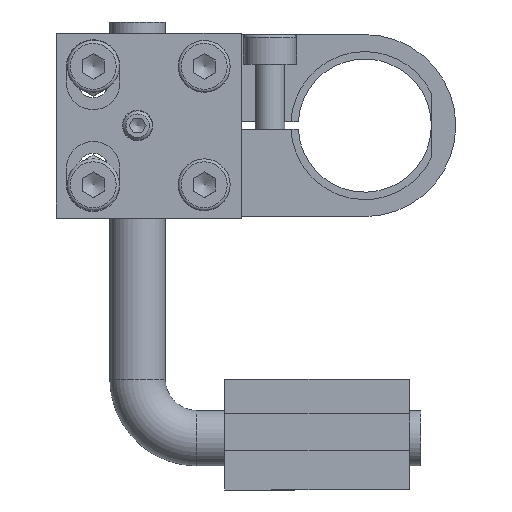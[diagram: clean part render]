
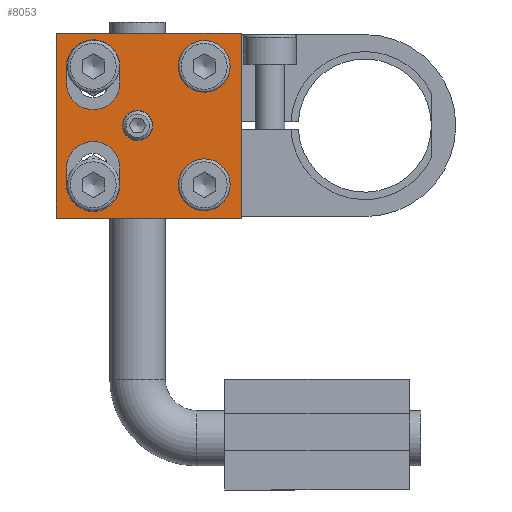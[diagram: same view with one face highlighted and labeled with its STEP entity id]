
A CAD part, front view. The second image highlights one B-rep face of the part: STEP entity #8053.
In plain terms, the highlighted planar face has unit normal (0, -1, 0).
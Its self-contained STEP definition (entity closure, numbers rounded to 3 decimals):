
#367=FACE_BOUND('',#1338,.T.);
#368=FACE_BOUND('',#1339,.T.);
#369=FACE_BOUND('',#1340,.T.);
#370=FACE_BOUND('',#1341,.T.);
#371=FACE_BOUND('',#1342,.T.);
#372=FACE_BOUND('',#1343,.T.);
#576=CIRCLE('',#8592,3.5);
#579=CIRCLE('',#8598,3.5);
#582=CIRCLE('',#8607,3.6);
#584=CIRCLE('',#8611,3.6);
#588=CIRCLE('',#8618,3.6);
#590=CIRCLE('',#8622,3.6);
#597=CIRCLE('',#8640,2.05);
#1338=EDGE_LOOP('',(#5402));
#1339=EDGE_LOOP('',(#5403));
#1340=EDGE_LOOP('',(#5404,#5405,#5406,#5407));
#1341=EDGE_LOOP('',(#5408,#5409,#5410,#5411));
#1342=EDGE_LOOP('',(#5412));
#1343=EDGE_LOOP('',(#5413,#5414,#5415,#5416));
#1970=LINE('',#11584,#2632);
#1994=LINE('',#11670,#2656);
#1998=LINE('',#11680,#2660);
#2004=LINE('',#11703,#2666);
#2008=LINE('',#11713,#2670);
#2023=LINE('',#11757,#2685);
#2024=LINE('',#11760,#2686);
#2027=LINE('',#11765,#2689);
#2632=VECTOR('',#9467,25.);
#2656=VECTOR('',#9553,2.25);
#2660=VECTOR('',#9565,2.25);
#2666=VECTOR('',#9585,2.25);
#2670=VECTOR('',#9597,2.25);
#2685=VECTOR('',#9648,25.);
#2686=VECTOR('',#9651,25.);
#2689=VECTOR('',#9656,25.);
#3293=VERTEX_POINT('',#11581);
#3294=VERTEX_POINT('',#11583);
#3313=VERTEX_POINT('',#11632);
#3316=VERTEX_POINT('',#11641);
#3322=VERTEX_POINT('',#11661);
#3323=VERTEX_POINT('',#11663);
#3325=VERTEX_POINT('',#11669);
#3327=VERTEX_POINT('',#11675);
#3334=VERTEX_POINT('',#11694);
#3335=VERTEX_POINT('',#11696);
#3337=VERTEX_POINT('',#11702);
#3339=VERTEX_POINT('',#11708);
#3348=VERTEX_POINT('',#11750);
#3350=VERTEX_POINT('',#11755);
#3351=VERTEX_POINT('',#11759);
#4076=EDGE_CURVE('',#3293,#3294,#1970,.T.);
#4100=EDGE_CURVE('',#3313,#3313,#576,.T.);
#4103=EDGE_CURVE('',#3316,#3316,#579,.T.);
#4112=EDGE_CURVE('',#3323,#3322,#582,.T.);
#4115=EDGE_CURVE('',#3325,#3323,#1994,.T.);
#4118=EDGE_CURVE('',#3327,#3325,#584,.T.);
#4121=EDGE_CURVE('',#3322,#3327,#1998,.T.);
#4128=EDGE_CURVE('',#3335,#3334,#588,.T.);
#4131=EDGE_CURVE('',#3337,#3335,#2004,.T.);
#4134=EDGE_CURVE('',#3339,#3337,#590,.T.);
#4137=EDGE_CURVE('',#3334,#3339,#2008,.T.);
#4156=EDGE_CURVE('',#3348,#3348,#597,.T.);
#4159=EDGE_CURVE('',#3350,#3293,#2023,.T.);
#4160=EDGE_CURVE('',#3294,#3351,#2024,.T.);
#4163=EDGE_CURVE('',#3351,#3350,#2027,.T.);
#5402=ORIENTED_EDGE('',*,*,#4100,.T.);
#5403=ORIENTED_EDGE('',*,*,#4103,.T.);
#5404=ORIENTED_EDGE('',*,*,#4112,.T.);
#5405=ORIENTED_EDGE('',*,*,#4121,.T.);
#5406=ORIENTED_EDGE('',*,*,#4118,.T.);
#5407=ORIENTED_EDGE('',*,*,#4115,.T.);
#5408=ORIENTED_EDGE('',*,*,#4128,.T.);
#5409=ORIENTED_EDGE('',*,*,#4137,.T.);
#5410=ORIENTED_EDGE('',*,*,#4134,.T.);
#5411=ORIENTED_EDGE('',*,*,#4131,.T.);
#5412=ORIENTED_EDGE('',*,*,#4156,.T.);
#5413=ORIENTED_EDGE('',*,*,#4159,.F.);
#5414=ORIENTED_EDGE('',*,*,#4163,.F.);
#5415=ORIENTED_EDGE('',*,*,#4160,.F.);
#5416=ORIENTED_EDGE('',*,*,#4076,.F.);
#7195=PLANE('',#8644);
#8053=ADVANCED_FACE('',(#367,#368,#369,#370,#371,#372),#7195,.T.);
#8592=AXIS2_PLACEMENT_3D('',#11633,#9511,#9512);
#8598=AXIS2_PLACEMENT_3D('',#11642,#9523,#9524);
#8607=AXIS2_PLACEMENT_3D('',#11664,#9547,#9548);
#8611=AXIS2_PLACEMENT_3D('',#11676,#9559,#9560);
#8618=AXIS2_PLACEMENT_3D('',#11697,#9579,#9580);
#8622=AXIS2_PLACEMENT_3D('',#11709,#9591,#9592);
#8640=AXIS2_PLACEMENT_3D('',#11751,#9642,#9643);
#8644=AXIS2_PLACEMENT_3D('',#11767,#9658,#9659);
#9467=DIRECTION('',(0.,0.,-1.));
#9511=DIRECTION('center_axis',(0.,1.,0.));
#9512=DIRECTION('ref_axis',(0.,0.,
1.));
#9523=DIRECTION('center_axis',(0.,1.,0.));
#9524=DIRECTION('ref_axis',(0.,0.,
1.));
#9547=DIRECTION('center_axis',(0.,1.,0.));
#9548=DIRECTION('ref_axis',(1.,0.,0.));
#9553=DIRECTION('',(0.,0.,1.));
#9559=DIRECTION('center_axis',(0.,1.,0.));
#9560=DIRECTION('ref_axis',(-1.,0.,0.));
#9565=DIRECTION('',(0.,0.,-1.));
#9579=DIRECTION('center_axis',(0.,1.,0.));
#9580=DIRECTION('ref_axis',(-1.,0.,0.));
#9585=DIRECTION('',(0.,0.,-1.));
#9591=DIRECTION('center_axis',(0.,1.,0.));
#9592=DIRECTION('ref_axis',(1.,0.,0.));
#9597=DIRECTION('',(0.,0.,1.));
#9642=DIRECTION('center_axis',(0.,1.,0.));
#9643=DIRECTION('ref_axis',(0.,0.,
1.));
#9648=DIRECTION('',(1.,0.,0.));
#9651=DIRECTION('',(-1.,0.,0.));
#9656=DIRECTION('',(0.,0.,1.));
#9658=DIRECTION('center_axis',(0.,-1.,0.));
#9659=DIRECTION('ref_axis',(0.,0.,
1.));
#11581=CARTESIAN_POINT('',(-10.25,-6.5,54.75));
#11583=CARTESIAN_POINT('',(-10.25,-6.5,29.75));
#11584=CARTESIAN_POINT('',(-10.25,-6.5,54.75));
#11632=CARTESIAN_POINT('',(-15.25,-6.5,53.75));
#11633=CARTESIAN_POINT('Origin',(-15.25,-6.5,50.25));
#11641=CARTESIAN_POINT('',(-15.25,-6.5,37.75));
#11642=CARTESIAN_POINT('Origin',(-15.25,-6.5,34.25));
#11661=CARTESIAN_POINT('',(-26.65,-6.5,50.25));
#11663=CARTESIAN_POINT('',(-33.85,-6.5,50.25));
#11664=CARTESIAN_POINT('Origin',(-30.25,-6.5,50.25));
#11669=CARTESIAN_POINT('',(-33.85,-6.5,48.));
#11670=CARTESIAN_POINT('',(-33.85,-6.5,46.25));
#11675=CARTESIAN_POINT('',(-26.65,-6.5,48.));
#11676=CARTESIAN_POINT('Origin',(-30.25,-6.5,48.));
#11680=CARTESIAN_POINT('',(-26.65,-6.5,45.125));
#11694=CARTESIAN_POINT('',(-33.85,-6.5,34.25));
#11696=CARTESIAN_POINT('',(-26.65,-6.5,34.25));
#11697=CARTESIAN_POINT('Origin',(-30.25,-6.5,34.25));
#11702=CARTESIAN_POINT('',(-26.65,-6.5,36.5));
#11703=CARTESIAN_POINT('',(-26.65,-6.5,38.25));
#11708=CARTESIAN_POINT('',(-33.85,-6.5,36.5));
#11709=CARTESIAN_POINT('Origin',(-30.25,-6.5,36.5));
#11713=CARTESIAN_POINT('',(-33.85,-6.5,39.375));
#11750=CARTESIAN_POINT('',(-24.25,-6.5,44.3));
#11751=CARTESIAN_POINT('Origin',(-24.25,-6.5,42.25));
#11755=CARTESIAN_POINT('',(-35.25,-6.5,54.75));
#11757=CARTESIAN_POINT('',(-35.25,-6.5,54.75));
#11759=CARTESIAN_POINT('',(-35.25,-6.5,29.75));
#11760=CARTESIAN_POINT('',(-10.25,-6.5,29.75));
#11765=CARTESIAN_POINT('',(-35.25,-6.5,29.75));
#11767=CARTESIAN_POINT('Origin',(-22.75,-6.5,42.25));
